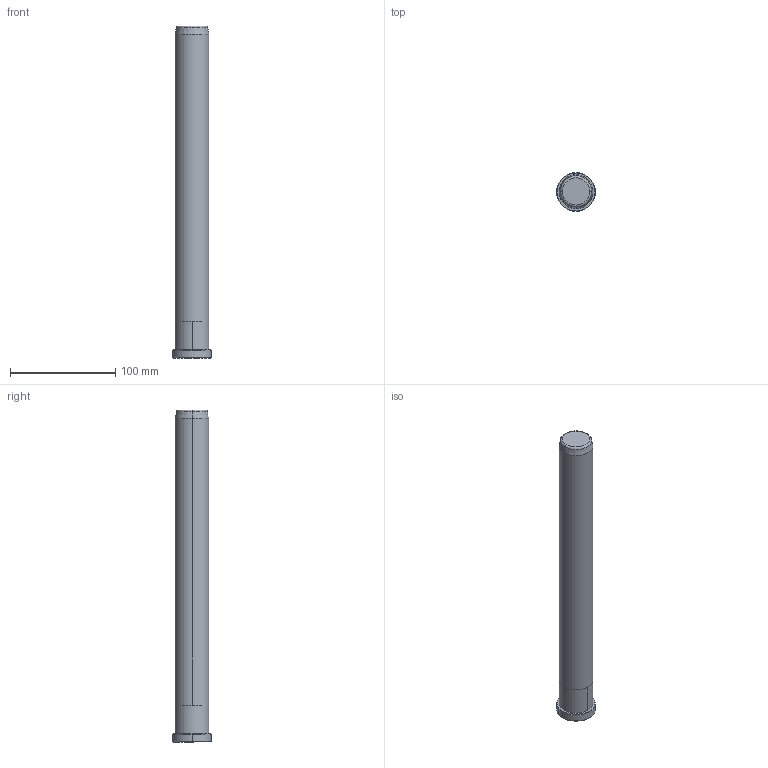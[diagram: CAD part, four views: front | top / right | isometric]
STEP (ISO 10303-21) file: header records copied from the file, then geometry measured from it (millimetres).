
FILE_DESCRIPTION((''),'2;1');
FILE_NAME('B80832315','2018-01-06T',('MANU'),(''),'PRO/ENGINEER BY PARAMETRIC TECHNOLOGY CORPORATION, 2012130','PRO/ENGINEER BY PARAMETRIC TECHNOLOGY CORPORATION, 2012130','');
FILE_SCHEMA(('CONFIG_CONTROL_DESIGN'));
Length unit declared in the file: millimetre
Products named in the file (1): B80832315
Bounding box: 37 x 37 x 315 mm (x, y, z)
Volume: 254902.9 mm3; surface area: 33664.1 mm2
Topology: 1 solids, 1 shells, 18 faces, 34 edges, 20 vertices
Faces by surface type: cone 6, cylinder 6, plane 4, torus 2
Entity records: 494 total; most frequent: DIRECTION 92, CARTESIAN_POINT 72, ORIENTED_EDGE 68, AXIS2_PLACEMENT_3D 40, EDGE_CURVE 34, CIRCLE 22, VERTEX_POINT 20, EDGE_LOOP 20
